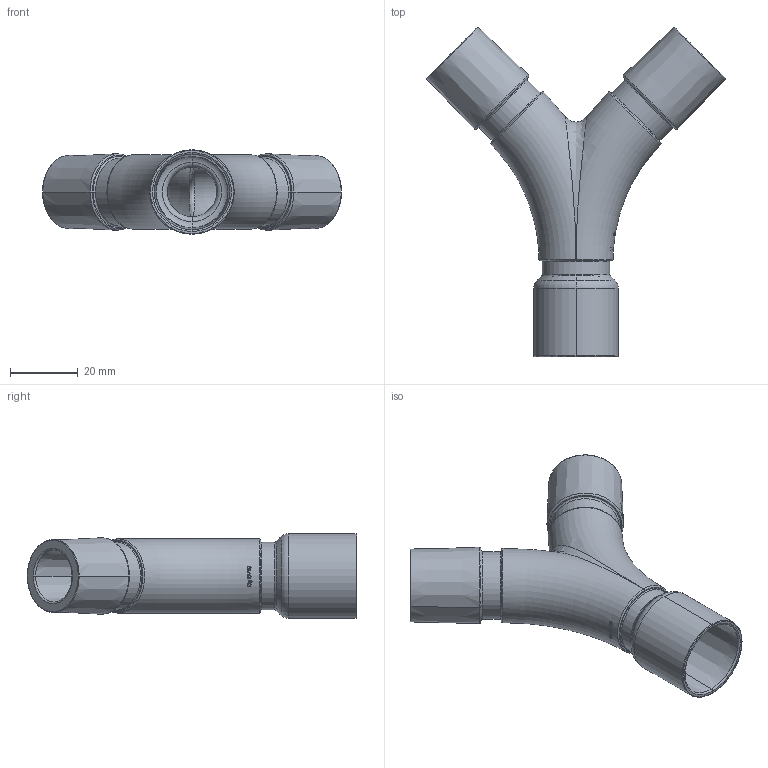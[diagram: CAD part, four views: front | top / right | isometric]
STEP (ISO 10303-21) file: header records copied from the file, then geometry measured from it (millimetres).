
FILE_DESCRIPTION(/* description */ (''),/* implementation_level */ '2;1');
FILE_NAME(/* name */ 'ISO 5356 Splitter M25 F22 - M22 F15_GgCV19.stp',/* time_stamp */ '2020-03-27T17:40:41+01:00',/* author */ (''),/* organization */ (''),/* preprocessor_version */ 'ST-DEVELOPER v16.7',/* originating_system */ 'SIEMENS PLM Software NX 12.0',/* authorisation */ '');
FILE_SCHEMA (('AUTOMOTIVE_DESIGN { 1 0 10303 214 3 1 1 1 }'));
Length unit declared in the file: millimetre
Products named in the file (1): ISO5356 - TGgCV19_Pieza_trabajo inicial - copia
Bounding box: 88.46 x 97.48 x 25 mm (x, y, z)
Volume: 27880.3 mm3; surface area: 18720.4 mm2
Topology: 1 solids, 1 shells, 266 faces, 665 edges, 426 vertices
Faces by surface type: plane 143, torus 44, extrusion 41, bspline 16, cone 14, cylinder 8
Full cylindrical faces by diameter (mm): 14.67 x3, 20 x3
Entity records: 11244 total; most frequent: CARTESIAN_POINT 5499, ORIENTED_EDGE 1314, DIRECTION 894, EDGE_CURVE 657, VERTEX_POINT 440, B_SPLINE_CURVE_WITH_KNOTS 385, AXIS2_PLACEMENT_3D 330, EDGE_LOOP 317
